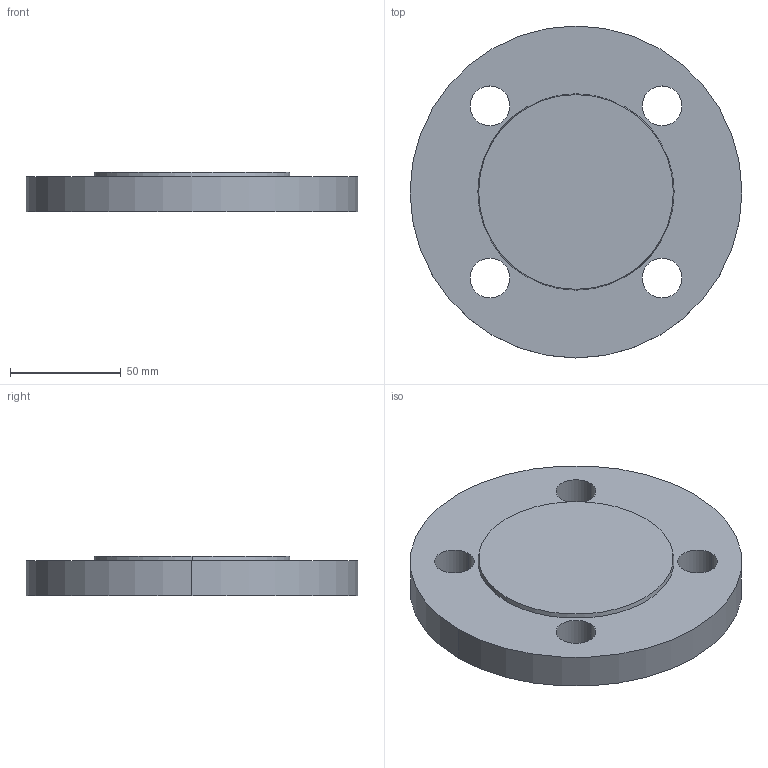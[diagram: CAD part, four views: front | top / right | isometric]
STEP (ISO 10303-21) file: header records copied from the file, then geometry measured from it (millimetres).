
FILE_DESCRIPTION (( 'STEP AP214' ), '1' );
FILE_NAME ('PN40 DN40 Type 05 - Type B Face.STEP', '2018-12-30T02:27:41', ( '' ), ( '' ), 'SwSTEP 2.0', 'SolidWorks 2019', '' );
FILE_SCHEMA (( 'AUTOMOTIVE_DESIGN' ));
Length unit declared in the file: millimetre
Products named in the file (1): PN40 DN40 Type 05 - Type B Face
Bounding box: 150 x 150 x 18 mm (x, y, z)
Volume: 278719.3 mm3; surface area: 44931.9 mm2
Topology: 1 solids, 1 shells, 15 faces, 36 edges, 24 vertices
Faces by surface type: cylinder 10, plane 3, cone 2
Entity records: 504 total; most frequent: DIRECTION 92, CARTESIAN_POINT 76, ORIENTED_EDGE 72, AXIS2_PLACEMENT_3D 40, EDGE_CURVE 36, CIRCLE 24, VERTEX_POINT 24, EDGE_LOOP 24
